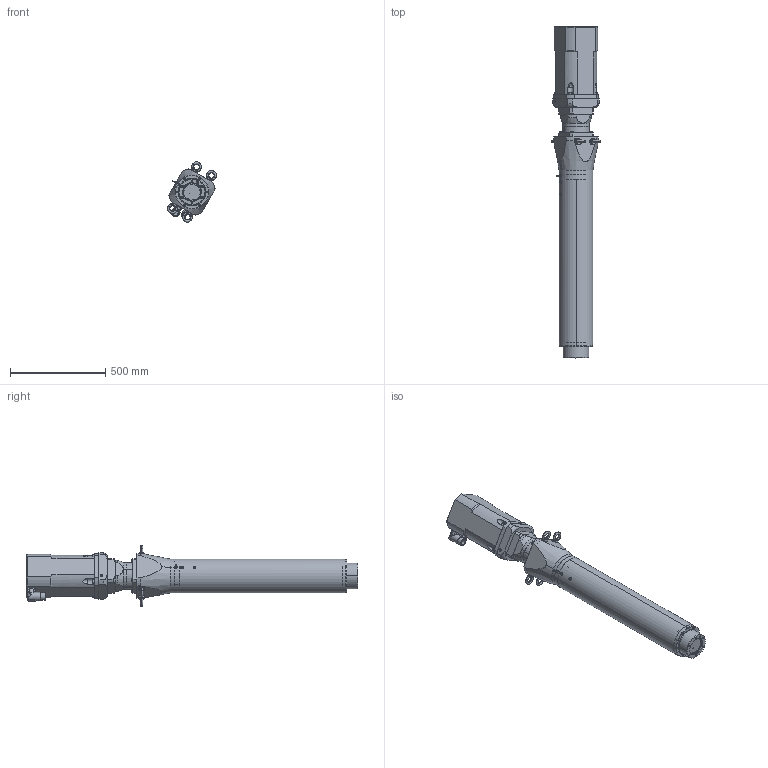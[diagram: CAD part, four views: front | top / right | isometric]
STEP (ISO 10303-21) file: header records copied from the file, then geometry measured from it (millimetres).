
FILE_DESCRIPTION (( 'STEP AP214' ), '1' );
FILE_NAME ('RLWIK100D-055-020HG0.STEP', '2023-04-06T05:52:44', ( '' ), ( '' ), 'SwSTEP 2.0', 'SolidWorks 2021', '' );
FILE_SCHEMA (( 'AUTOMOTIVE_DESIGN' ));
Length unit declared in the file: millimetre
Products named in the file (1): RLWIK100D-055-020HG0
Bounding box: 257.44 x 1744 x 317.1 mm (x, y, z)
Volume: 36976297.3 mm3; surface area: 2645880.6 mm2
Topology: 34 solids, 34 shells, 1194 faces, 2824 edges, 1676 vertices
Faces by surface type: cylinder 466, plane 354, cone 206, torus 92, bspline 74, sphere 2
Entity records: 53152 total; most frequent: CARTESIAN_POINT 12564, DIRECTION 5936, ORIENTED_EDGE 5360, EDGE_CURVE 2680, AXIS2_PLACEMENT_3D 2400, VERTEX_POINT 1676, EDGE_LOOP 1406, CIRCLE 1279
